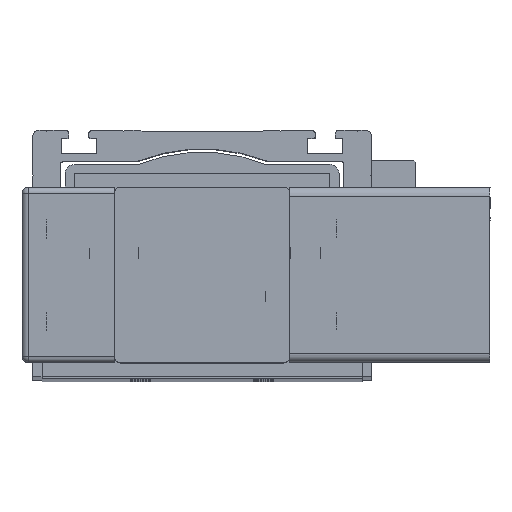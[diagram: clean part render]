
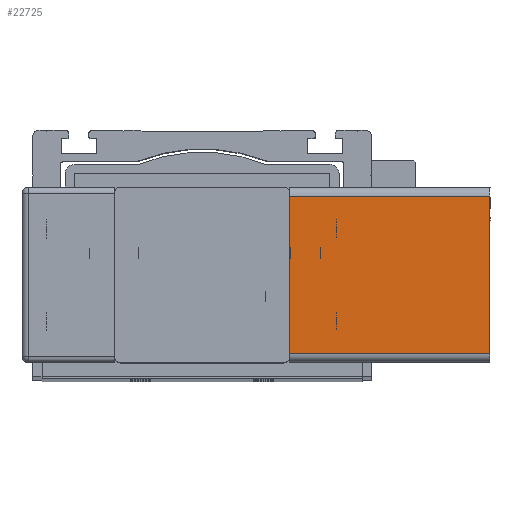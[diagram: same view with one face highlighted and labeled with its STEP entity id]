
A CAD part, top view. The second image highlights one B-rep face of the part: STEP entity #22725.
In plain terms, the highlighted planar face has unit normal (0, 0, 1) as drawn and (-1, 0, 0) by its records, which use the part's own axes.
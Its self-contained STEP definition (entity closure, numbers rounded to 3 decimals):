
#22459=CARTESIAN_POINT('',(0.0,54.0,0.0));
#22460=VERTEX_POINT('',#22459);
#22468=CARTESIAN_POINT('',(0.0,3.,0.0));
#22469=VERTEX_POINT('',#22468);
#22470=CARTESIAN_POINT('',(0.0,54.0,0.0));
#22471=DIRECTION('',(0.0,-1.0,0.0));
#22472=VECTOR('',#22471,51.0);
#22473=LINE('',#22470,#22472);
#22474=EDGE_CURVE('',#22460,#22469,#22473,.T.);
#22608=CARTESIAN_POINT('',(0.0,3.,-65.0));
#22609=VERTEX_POINT('',#22608);
#22626=CARTESIAN_POINT('',(0.0,3.,0.0));
#22627=DIRECTION('',(0.0,0.0,-1.0));
#22628=VECTOR('',#22627,65.0);
#22629=LINE('',#22626,#22628);
#22630=EDGE_CURVE('',#22469,#22609,#22629,.T.);
#22684=CARTESIAN_POINT('',(0.0,54.0,-65.0));
#22685=VERTEX_POINT('',#22684);
#22693=CARTESIAN_POINT('',(0.0,54.0,-65.0));
#22694=DIRECTION('',(0.0,0.0,1.0));
#22695=VECTOR('',#22694,65.0);
#22696=LINE('',#22693,#22695);
#22697=EDGE_CURVE('',#22685,#22460,#22696,.T.);
#22709=CARTESIAN_POINT('',(0.0,57.0,0.0));
#22710=DIRECTION('',(-1.0,0.0,0.0));
#22711=DIRECTION('',(0.0,0.0,1.0));
#22712=AXIS2_PLACEMENT_3D('',#22709,#22710,#22711);
#22713=PLANE('',#22712);
#22714=ORIENTED_EDGE('',*,*,#22630,.F.);
#22715=ORIENTED_EDGE('',*,*,#22474,.F.);
#22716=ORIENTED_EDGE('',*,*,#22697,.F.);
#22717=CARTESIAN_POINT('',(0.0,54.0,-65.0));
#22718=DIRECTION('',(0.0,-1.0,0.0));
#22719=VECTOR('',#22718,51.0);
#22720=LINE('',#22717,#22719);
#22721=EDGE_CURVE('',#22685,#22609,#22720,.T.);
#22722=ORIENTED_EDGE('',*,*,#22721,.T.);
#22723=EDGE_LOOP('',(#22714,#22715,#22716,#22722));
#22724=FACE_OUTER_BOUND('',#22723,.T.);
#22725=ADVANCED_FACE('',(#22724),#22713,.T.);
